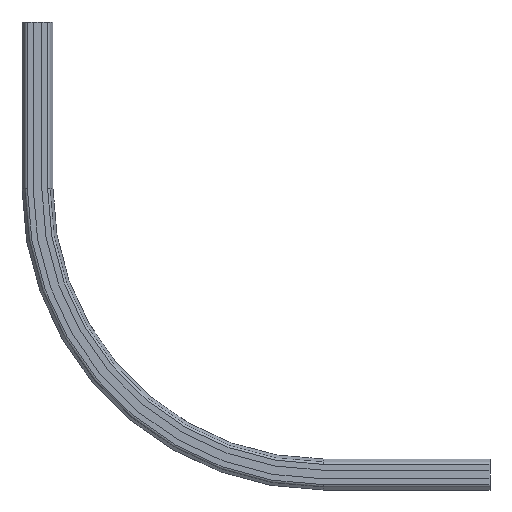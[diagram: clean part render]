
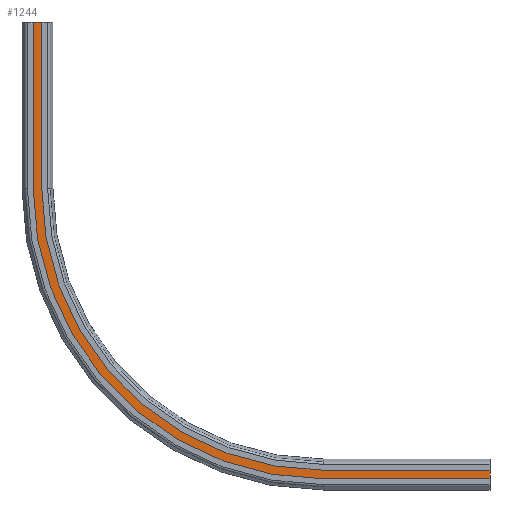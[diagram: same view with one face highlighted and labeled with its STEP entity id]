
A CAD part, front view. The second image highlights one B-rep face of the part: STEP entity #1244.
In plain terms, the highlighted planar face has unit normal (0, -1, 0).
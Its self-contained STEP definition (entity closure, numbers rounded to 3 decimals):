
#45=PLANE('',#1387);
#110=FACE_OUTER_BOUND('',#184,.T.);
#184=EDGE_LOOP('',(#1003,#1004,#1005,#1006,#1007,#1008,#1009,#1010));
#216=LINE('',#1861,#324);
#218=LINE('',#1871,#326);
#277=LINE('',#2109,#385);
#278=LINE('',#2113,#386);
#279=LINE('',#2114,#387);
#280=LINE('',#2115,#388);
#324=VECTOR('',#1450,350.);
#326=VECTOR('',#1460,350.);
#385=VECTOR('',#1725,350.);
#386=VECTOR('',#1730,350.);
#387=VECTOR('',#1731,45.8);
#388=VECTOR('',#1732,45.8);
#454=CIRCLE('',#1327,622.9);
#458=CIRCLE('',#1332,577.1);
#509=VERTEX_POINT('',#1858);
#510=VERTEX_POINT('',#1860);
#511=VERTEX_POINT('',#1864);
#514=VERTEX_POINT('',#1869);
#560=VERTEX_POINT('',#1999);
#562=VERTEX_POINT('',#2005);
#590=VERTEX_POINT('',#2108);
#591=VERTEX_POINT('',#2112);
#625=EDGE_CURVE('',#510,#509,#216,.T.);
#630=EDGE_CURVE('',#514,#511,#218,.T.);
#692=EDGE_CURVE('',#560,#510,#454,.T.);
#696=EDGE_CURVE('',#562,#514,#458,.T.);
#747=EDGE_CURVE('',#590,#560,#277,.T.);
#749=EDGE_CURVE('',#591,#562,#278,.T.);
#750=EDGE_CURVE('',#591,#590,#279,.T.);
#751=EDGE_CURVE('',#509,#511,#280,.T.);
#1003=ORIENTED_EDGE('',*,*,#749,.F.);
#1004=ORIENTED_EDGE('',*,*,#750,.T.);
#1005=ORIENTED_EDGE('',*,*,#747,.T.);
#1006=ORIENTED_EDGE('',*,*,#692,.T.);
#1007=ORIENTED_EDGE('',*,*,#625,.T.);
#1008=ORIENTED_EDGE('',*,*,#751,.T.);
#1009=ORIENTED_EDGE('',*,*,#630,.F.);
#1010=ORIENTED_EDGE('',*,*,#696,.F.);
#1244=ADVANCED_FACE('',(#110),#45,.T.);
#1327=AXIS2_PLACEMENT_3D('',#2000,#1587,#1588);
#1332=AXIS2_PLACEMENT_3D('',#2007,#1597,#1598);
#1387=AXIS2_PLACEMENT_3D('',#2111,#1728,#1729);
#1450=DIRECTION('',(1.,0.,0.));
#1460=DIRECTION('',(1.,0.,0.));
#1587=DIRECTION('center_axis',(0.,-1.,0.));
#1588=DIRECTION('ref_axis',(0.,0.,1.));
#1597=DIRECTION('center_axis',(0.,-1.,0.));
#1598=DIRECTION('ref_axis',(0.,0.,1.));
#1725=DIRECTION('',(0.,0.,-1.));
#1728=DIRECTION('center_axis',(0.,-1.,0.));
#1729=DIRECTION('ref_axis',(0.,0.,-1.));
#1730=DIRECTION('',(0.,0.,-1.));
#1731=DIRECTION('',(-1.,0.,0.));
#1732=DIRECTION('',(0.,0.,1.));
#1858=CARTESIAN_POINT('',(950.,52.8,-972.9));
#1860=CARTESIAN_POINT('',(600.,52.8,-972.9));
#1861=CARTESIAN_POINT('',(600.,52.8,-972.9));
#1864=CARTESIAN_POINT('',(950.,52.8,-927.1));
#1869=CARTESIAN_POINT('',(600.,52.8,-927.1));
#1871=CARTESIAN_POINT('',(600.,52.8,-927.1));
#1999=CARTESIAN_POINT('',(-22.9,52.8,-350.));
#2000=CARTESIAN_POINT('Origin',(600.,52.8,-350.));
#2005=CARTESIAN_POINT('',(22.9,52.8,-350.));
#2007=CARTESIAN_POINT('Origin',(600.,52.8,-350.));
#2108=CARTESIAN_POINT('',(-22.9,52.8,0.));
#2109=CARTESIAN_POINT('',(-22.9,52.8,0.));
#2111=CARTESIAN_POINT('Origin',(-22.9,52.8,0.));
#2112=CARTESIAN_POINT('',(22.9,52.8,0.));
#2113=CARTESIAN_POINT('',(22.9,52.8,0.));
#2114=CARTESIAN_POINT('',(22.9,52.8,0.));
#2115=CARTESIAN_POINT('',(950.,52.8,-927.1));
